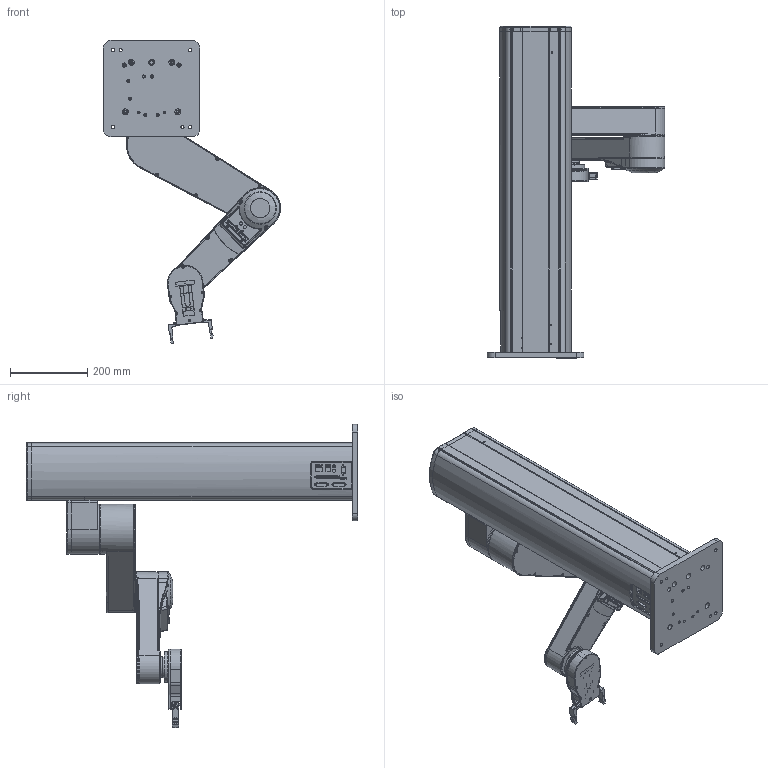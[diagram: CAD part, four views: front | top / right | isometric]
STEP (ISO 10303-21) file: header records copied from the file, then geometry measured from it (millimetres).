
FILE_DESCRIPTION (( 'STEP AP214' ), '1' );
FILE_NAME ('Z-Arm4160B(Íâ·¢).STEP', '2023-05-31T09:52:30', ( '' ), ( '' ), 'SwSTEP 2.0', 'SolidWorks 2022', '' );
FILE_SCHEMA (( 'AUTOMOTIVE_DESIGN' ));
Length unit declared in the file: millimetre
Products named in the file (24): 5A0001-A841003-100 悵誘俋褲奻裔啣; 5A0001-A841025-100 菴媼旋极; 菴媼旋极郪璃ㄗ蜊ㄘ; 5A0001-A841001-100 悵誘俋褲; 菴珨旋极郪璃ㄗ蜊ㄘ; 5A0001-A841019-100 菴珨旋极奻裔啣; 5B0001-A841001-100 殑結啣; WPU-35-[R]-SNH.step; 8AAV10-4160000-000  4160_IO蛌諉啣_V1.2.0; 5A0001-A841011-100 菴媼旋极狟裔啣; 5B0001-A541002-100 脣釱嘐隅啣; 嘐隅釱郪璃ㄗ蜊ㄘ; 奻狟蕾翐; 5A0001-A841013-100 嘐隅釱奻裔; 5A0001-A624019-100 藺傷楊擘; Z-Arm4160B(俋楷); 20標蛈; 5A0001-A841018-100 菴珨旋极狟裔啣; 5A0001-A841012-100 嘐隅釱; 5A0001-A841024-100 菴媼旋极奻裔啣; 5A0001-A841004-100 掛极菁釱; 4160B翋諷郪璃; 5A0001-A841020-100 菴珨旋极; 5A0001-A841002-100 掛极ヶ誘欶
Assembly tree (23 placements, depth 4):
  Z-Arm4160B(俋楷)
    奻狟蕾翐
      5A0001-A841001-100 悵誘俋褲
      5A0001-A841004-100 掛极菁釱
      5B0001-A841001-100 殑結啣
      5A0001-A841003-100 悵誘俋褲奻裔啣
      5A0001-A841002-100 掛极ヶ誘欶
      4160B翋諷郪璃
        5B0001-A541002-100 脣釱嘐隅啣
    嘐隅釱郪璃ㄗ蜊ㄘ
      5A0001-A841012-100 嘐隅釱
      5A0001-A841013-100 嘐隅釱奻裔
    菴珨旋极郪璃ㄗ蜊ㄘ
      5A0001-A841018-100 菴珨旋极狟裔啣
      5A0001-A841019-100 菴珨旋极奻裔啣
      5A0001-A841020-100 菴珨旋极
    菴媼旋极郪璃ㄗ蜊ㄘ
      5A0001-A841025-100 菴媼旋极
      WPU-35-[R]-SNH.step
      5A0001-A624019-100 藺傷楊擘
      5A0001-A841024-100 菴媼旋极奻裔啣
      5A0001-A841011-100 菴媼旋极狟裔啣
      8AAV10-4160000-000  4160_IO蛌諉啣_V1.2.0
    20標蛈
Bounding box: 459.45 x 860 x 785.67 mm (x, y, z)
Volume: 13137371.6 mm3; surface area: 2271693.7 mm2
Topology: 26 solids, 43 shells, 2550 faces, 6457 edges, 4193 vertices
Faces by surface type: plane 1192, cylinder 1062, cone 189, bspline 107
Full cylindrical faces by diameter (mm): 0.635 x2, 0.8 x36, 0.9 x39, 1.1 x1, 2 x11, 2.013 x8, 2.05 x4, 2.459 x43, 2.5 x22, 2.7 x4, 2.8 x10, 2.9 x20, 3 x10, 3.2 x10, 3.242 x4, 3.3 x34, 3.4 x8, 3.5 x26, 4 x4, 4.2 x1, 4.5 x18, 5 x8, 5.5 x11, 5.7 x4, 6 x20, 6.5 x10, 6.8 x2, 8 x20, 8.5 x4, 9 x5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
Entity records: 110460 total; most frequent: CARTESIAN_POINT 22254, DIRECTION 12732, ORIENTED_EDGE 11394, EDGE_CURVE 5697, AXIS2_PLACEMENT_3D 4802, VERTEX_POINT 4023, EDGE_LOOP 3710, LINE 3128
